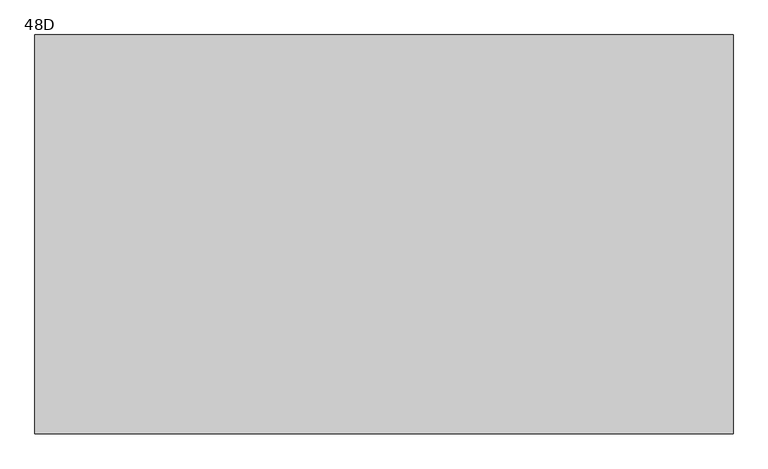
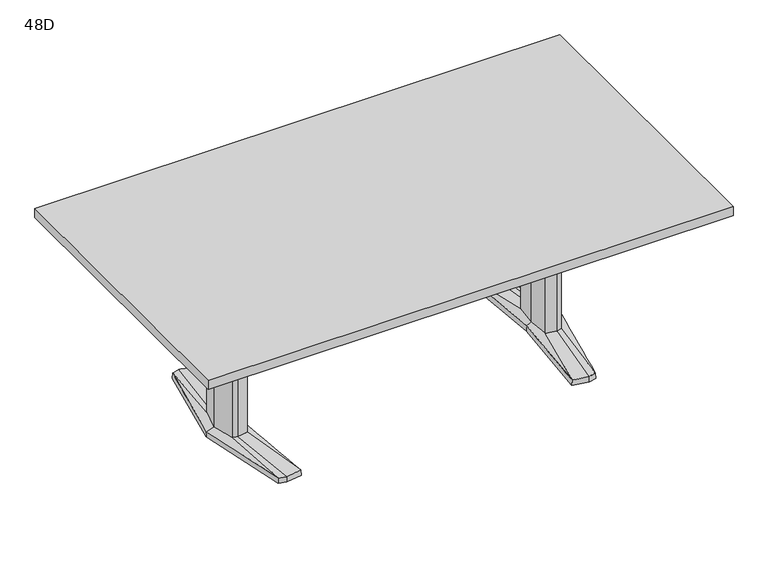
"""IFC4 building model written with IfcOpenShell, lengths in millimetres: furniture geometry, Coalesse_AM_Table_Conference_ETable2_Rectangular_84in_AluminiumBase : 48D."""

from ifc_helpers import new_model, si_unit, frame, origin, place, context, project, spatial, polyline, outline, extrude, source, transform, mapped, element, save
from ifc_brep_helpers import plane_surface, spline_surface, advanced_brep


def furniture_48d_375dbffd(model_context):
    return source(origin(), model_context, "Body", "SolidModel", [
        advanced_brep(
        [(614.8503471, -379.3768856, 25.4), (644.5756636, -371.5332654, 25.4), (668.2327243, -89.293702, 36.5125), (648.9795254, -94.605478, 36.5125), (606.0521001, -87.0529327, 36.5125), (551.7612538, -368.5071562, 25.4), (597.9364207, 0.0, 36.5125), (579.8389754, 0.3970149, 25.4), (606.0521001, 87.0529327, 36.5125), (551.7615002, 368.5172593, 25.4), (648.9795254, 94.605478, 36.5125), (614.8502233, 379.3769183, 25.4), (668.2327243, 89.293702, 36.5125), (644.7535458, 371.4863276, 25.4), (692.1595251, 0.0, 36.5125), (721.4851663, 0.0003516, 25.4), (578.2468742, 0.3968871, 3.175), (550.06875, 369.8367279, 3.175), (614.9213004, 381.0, 3.175), (646.1093245, 372.7704151, 3.175), (723.10625, 0.0, 3.175), (645.9309817, -372.8174744, 3.175), (614.9213004, -381.0, 3.175), (550.06875, -369.8264415, 3.175), (649.5979264, 107.6121478, 3.175), (594.3065451, 97.8843184, 3.175), (585.1810887, 0.0, 3.175), (594.3065451, -97.8843184, 3.175), (649.5979264, -107.6121478, 3.175), (678.6183473, -99.6056872, 3.175), (705.3083085, 0.0, 3.175), (678.6183473, 99.6056872, 3.175), (613.4286812, 346.9152841, 3.175), (557.7811371, 337.3364985, 3.175), (560.1889918, 324.8641942, 3.175), (612.8600644, 333.9306305, 3.175), (648.6725609, 324.4807859, 3.175), (647.5544526, 337.9105158, 3.175), (613.4286812, -346.9152841, 3.175), (647.5544526, -337.9105158, 3.175), (648.6725609, -324.4807859, 3.175), (612.8600644, -333.9306305, 3.175), (560.1889918, -324.8641942, 3.175), (557.7811371, -337.3364985, 3.175), (649.5979264, 107.6121478, 0.0), (678.6183473, 99.6056872, 0.0), (705.3083085, 0.0, 0.0), (678.6183473, -99.6056872, 0.0), (649.5979264, -107.6121478, 0.0), (594.3065451, -97.8843184, 0.0), (585.1810887, 0.0, 0.0), (594.3065451, 97.8843184, 0.0), (613.4286812, 346.9152841, 0.0), (647.5544526, 337.9105158, 0.0), (648.6725609, 324.4807859, 0.0), (612.8600644, 333.9306305, 0.0), (560.1889918, 324.8641942, 0.0), (557.7811371, 337.3364985, 0.0), (613.4286812, -346.9152841, 0.0), (557.7811371, -337.3364985, 0.0), (560.1889918, -324.8641942, 0.0), (612.8600644, -333.9306305, 0.0), (648.6725609, -324.4807859, 0.0), (647.5544526, -337.9105158, 0.0), (668.2327243, 89.293702, 698.5), (648.9795254, 94.605478, 698.5), (606.0521001, 87.0529327, 698.5), (597.9364207, 0.0, 698.5), (606.0521001, -87.0529327, 698.5), (648.9795254, -94.605478, 698.5), (668.2327243, -89.293702, 698.5), (692.1595251, 0.0, 698.5)],
        [
            (0, 1),
            (1, 2),
            (2, 3),
            (3, 0),
            (3, 4),
            (4, 5),
            (5, 0),
            (4, 6),
            (6, 7),
            (7, 5),
            (6, 8),
            (8, 9),
            (9, 7),
            (8, 10),
            (10, 11),
            (11, 9),
            (10, 12),
            (12, 13),
            (13, 11),
            (12, 14),
            (14, 15),
            (15, 13),
            (1, 15),
            (14, 2),
            (16, 17),
            (17, 18),
            (18, 19),
            (19, 20),
            (20, 21),
            (21, 22),
            (22, 23),
            (23, 16),
            (24, 25),
            (25, 26),
            (26, 27),
            (27, 28),
            (28, 29),
            (29, 30),
            (30, 31),
            (31, 24),
            (32, 33),
            (33, 34),
            (34, 35),
            (35, 36),
            (36, 37),
            (37, 32),
            (38, 39),
            (39, 40),
            (40, 41),
            (41, 42),
            (42, 43),
            (43, 38),
            (16, 7),
            (9, 17),
            (11, 18),
            (13, 19),
            (15, 20),
            (1, 21),
            (0, 22),
            (5, 23),
            (44, 45),
            (45, 46),
            (46, 47),
            (47, 48),
            (48, 49),
            (49, 50),
            (50, 51),
            (51, 44),
            (52, 53),
            (53, 54),
            (54, 55),
            (55, 56),
            (56, 57),
            (57, 52),
            (58, 59),
            (59, 60),
            (60, 61),
            (61, 62),
            (62, 63),
            (63, 58),
            (44, 24),
            (31, 45),
            (30, 46),
            (29, 47),
            (28, 48),
            (27, 49),
            (26, 50),
            (25, 51),
            (52, 32),
            (37, 53),
            (36, 54),
            (35, 55),
            (34, 56),
            (33, 57),
            (58, 38),
            (43, 59),
            (42, 60),
            (41, 61),
            (40, 62),
            (39, 63),
            (64, 65),
            (65, 66),
            (66, 67),
            (67, 68),
            (68, 69),
            (69, 70),
            (70, 71),
            (71, 64),
            (71, 14),
            (12, 64),
            (70, 2),
            (69, 3),
            (68, 4),
            (67, 6),
            (66, 8),
            (65, 10),
        ],
        [
            spline_surface(1, 1, [[(644.5756636, -371.5332654, 25.4), (614.8503471, -379.3768856, 25.4)], [(668.2327243, -89.293702, 36.5125), (648.9795254, -94.605478, 36.5125)]], [2, 2], [2, 2], [0.0, 1.0], [0.0, 1.0]),
            spline_surface(1, 1, [[(614.8503471, -379.3768856, 25.4), (551.7612538, -368.5071562, 25.4)], [(648.9795254, -94.605478, 36.5125), (606.0521001, -87.0529327, 36.5125)]], [2, 2], [2, 2], [0.0, 1.0], [0.0, 1.0]),
            spline_surface(1, 1, [[(551.7612538, -368.5071562, 25.4), (579.8389754, 0.3970149, 25.4)], [(606.0521001, -87.0529327, 36.5125), (597.9364207, 0.0, 36.5125)]], [2, 2], [2, 2], [0.0, 1.0], [0.0, 1.0]),
            spline_surface(1, 1, [[(579.8389754, 0.3970149, 25.4), (551.7615002, 368.5172593, 25.4)], [(597.9364207, 0.0, 36.5125), (606.0521001, 87.0529327, 36.5125)]], [2, 2], [2, 2], [0.0, 1.0], [0.0, 1.0]),
            spline_surface(1, 1, [[(551.7615002, 368.5172593, 25.4), (614.8502233, 379.3769183, 25.4)], [(606.0521001, 87.0529327, 36.5125), (648.9795254, 94.605478, 36.5125)]], [2, 2], [2, 2], [0.0, 1.0], [0.0, 1.0]),
            spline_surface(1, 1, [[(614.8502233, 379.3769183, 25.4), (644.7535458, 371.4863276, 25.4)], [(648.9795254, 94.605478, 36.5125), (668.2327243, 89.293702, 36.5125)]], [2, 2], [2, 2], [0.0, 1.0], [0.0, 1.0]),
            spline_surface(1, 1, [[(644.7535458, 371.4863276, 25.4), (721.4851663, 0.0003516, 25.4)], [(668.2327243, 89.293702, 36.5125), (692.1595251, 0.0, 36.5125)]], [2, 2], [2, 2], [0.0, 1.0], [0.0, 1.0]),
            spline_surface(1, 1, [[(721.4851663, 0.0003516, 25.4), (644.5756636, -371.5332654, 25.4)], [(692.1595251, 0.0, 36.5125), (668.2327243, -89.293702, 36.5125)]], [2, 2], [2, 2], [0.0, 1.0], [0.0, 1.0]),
            plane_surface(frame((615.4216914, 0.0450143, 3.175), z_axis=(0.0, 0.0, -1.0), x_axis=(-0.9669048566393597, -0.2551372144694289, 0.0))),
            plane_surface(frame((564.1578121, 185.1168075, 3.175), z_axis=(-0.9945699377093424, -0.07585840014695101, 0.0712470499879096), x_axis=(-0.07605167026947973, 0.9971038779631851, 0.0))),
            plane_surface(frame((582.4950252, 375.418364, 3.175), z_axis=(-0.1692071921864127, 0.9830019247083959, 0.07124704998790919), x_axis=(0.985506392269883, 0.16963829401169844, 0.0))),
            plane_surface(frame((630.5153124, 376.8852076, 3.175), z_axis=(0.2544888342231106, 0.9644476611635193, 0.07124704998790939), x_axis=(0.9669048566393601, -0.25513721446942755, 0.0))),
            plane_surface(frame((684.6077872, 186.3852076, 3.175), z_axis=(0.9768383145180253, 0.2017690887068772, 0.07124704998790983), x_axis=(0.20228315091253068, -0.9793270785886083, 0.0))),
            plane_surface(frame((684.5186158, -186.4087372, 3.175), z_axis=(0.9767507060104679, -0.20219276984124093, 0.07124704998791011), x_axis=(-0.2027079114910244, -0.9792392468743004, 0.0))),
            plane_surface(frame((630.426141, -376.9087372, 3.175), z_axis=(0.2544888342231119, -0.9644476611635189, 0.0712470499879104), x_axis=(-0.9669048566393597, -0.2551372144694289, 0.0))),
            plane_surface(frame((582.4950252, -375.4132207, 3.175), z_axis=(-0.16935861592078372, -0.982975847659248, 0.07124704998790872), x_axis=(-0.9854802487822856, 0.16979010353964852, 0.0))),
            plane_surface(frame((564.1578121, -184.7147772, 3.175), z_axis=(-0.9945820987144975, 0.07569878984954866, 0.07124704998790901), x_axis=(0.07589165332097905, 0.9971160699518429, 0.0))),
            plane_surface(frame((652.3571479, 106.8509046, 0.0), z_axis=(0.0, 0.0, -1.0000000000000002), x_axis=(-0.9639855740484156, 0.26595453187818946, 0.0))),
            plane_surface(frame((649.5979264, 107.6121478, 3.175), z_axis=(0.26595453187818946, 0.9639855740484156, 0.0), x_axis=(0.0, 0.0, -1.0))),
            plane_surface(frame((678.6183473, 99.6056872, 3.175), z_axis=(0.9659241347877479, 0.2588253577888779, 0.0), x_axis=(0.0, 0.0, -1.0))),
            plane_surface(frame((705.3083085, 0.0, 3.175), z_axis=(0.9659241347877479, -0.2588253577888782, 0.0), x_axis=(0.0, 0.0, -1.0))),
            plane_surface(frame((678.6183473, -99.6056872, 3.175), z_axis=(0.26595453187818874, -0.9639855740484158, 0.0), x_axis=(0.0, 0.0, -1.0))),
            plane_surface(frame((649.5979264, -107.6121478, 3.175), z_axis=(-0.17327617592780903, -0.9848732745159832, 0.0), x_axis=(0.0, 0.0, -1.0))),
            plane_surface(frame((594.3065451, -97.8843184, 3.175), z_axis=(-0.9956824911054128, -0.0928244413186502, 0.0), x_axis=(0.0, 0.0, -1.0))),
            plane_surface(frame((585.1810887, 0.0, 3.175), z_axis=(-0.9956824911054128, 0.09282444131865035, 0.0), x_axis=(0.0, 0.0, -1.0))),
            plane_surface(frame((594.3065451, 97.8843184, 3.175), z_axis=(-0.17327617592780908, 0.984873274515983, 0.0), x_axis=(0.0, 0.0, -1.0))),
            plane_surface(frame((613.4286812, 346.9152841, 3.175), z_axis=(0.25513721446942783, 0.9669048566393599, 0.0), x_axis=(0.0, 0.0, -1.0))),
            plane_surface(frame((647.5544526, 337.9105158, 3.175), z_axis=(0.9965521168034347, 0.0829691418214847, 0.0), x_axis=(0.0, 0.0, -1.0))),
            plane_surface(frame((648.6725609, 324.4807859, 3.175), z_axis=(-0.25513721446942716, -0.9669048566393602, 0.0), x_axis=(0.0, 0.0, -1.0))),
            plane_surface(frame((612.8600644, 333.9306305, 3.175), z_axis=(0.16963829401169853, -0.985506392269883, 0.0), x_axis=(0.0, 0.0, -1.0))),
            plane_surface(frame((560.1889918, 324.8641942, 3.175), z_axis=(-0.9818699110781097, -0.18955600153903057, 0.0), x_axis=(0.0, 0.0, -1.0))),
            plane_surface(frame((557.7811371, 337.3364985, 3.175), z_axis=(-0.16963829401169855, 0.9855063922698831, 0.0), x_axis=(0.0, 0.0, -1.0))),
            plane_surface(frame((613.4286812, -346.9152841, 3.175), z_axis=(-0.1696382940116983, -0.9855063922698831, 0.0), x_axis=(0.0, 0.0, -1.0))),
            plane_surface(frame((557.7811371, -337.3364985, 3.175), z_axis=(-0.9818699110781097, 0.18955600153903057, 0.0), x_axis=(0.0, 0.0, -1.0))),
            plane_surface(frame((560.1889918, -324.8641942, 3.175), z_axis=(0.16963829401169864, 0.985506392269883, 0.0), x_axis=(0.0, 0.0, -1.0))),
            plane_surface(frame((612.8600644, -333.9306305, 3.175), z_axis=(-0.2551372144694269, 0.9669048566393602, 0.0), x_axis=(0.0, 0.0, -1.0))),
            plane_surface(frame((648.6725609, -324.4807859, 3.175), z_axis=(0.9965521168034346, -0.0829691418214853, 0.0), x_axis=(0.0, 0.0, -1.0))),
            plane_surface(frame((647.5544526, -337.9105158, 3.175), z_axis=(0.2551372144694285, -0.9669048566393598, 0.0), x_axis=(0.0, 0.0, -1.0))),
            plane_surface(frame((692.1595251, 0.0, 698.5), z_axis=(0.0, 0.0, 1.0), x_axis=(0.25882535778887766, -0.965924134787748, 0.0))),
            plane_surface(frame((668.2327243, 89.293702, 698.5), z_axis=(0.965924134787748, 0.25882535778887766, 0.0), x_axis=(0.0, 0.0, -1.0))),
            plane_surface(frame((692.1595251, 0.0, 698.5), z_axis=(0.965924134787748, -0.2588253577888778, 0.0), x_axis=(0.0, 0.0, -1.0))),
            plane_surface(frame((668.2327243, -89.293702, 698.5), z_axis=(0.2659545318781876, -0.963985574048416, 0.0), x_axis=(0.0, 0.0, -1.0))),
            plane_surface(frame((648.9795254, -94.605478, 698.5), z_axis=(-0.1732761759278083, -0.9848732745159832, 0.0), x_axis=(0.0, 0.0, -1.0))),
            plane_surface(frame((606.0521001, -87.0529327, 698.5), z_axis=(-0.9956824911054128, -0.0928244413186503, 0.0), x_axis=(0.0, 0.0, -1.0))),
            plane_surface(frame((597.9364207, 0.0, 698.5), z_axis=(-0.9956824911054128, 0.09282444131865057, 0.0), x_axis=(0.0, 0.0, -1.0))),
            plane_surface(frame((606.0521001, 87.0529327, 698.5), z_axis=(-0.17327617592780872, 0.9848732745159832, 0.0), x_axis=(0.0, 0.0, -1.0))),
            plane_surface(frame((648.9795254, 94.605478, 698.5), z_axis=(0.26595453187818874, 0.9639855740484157, 0.0), x_axis=(0.0, 0.0, -1.0))),
        ],
        [
            (0, [[1, 2, 3, 4]]),
            (1, [[5, 6, 7, -4]]),
            (2, [[8, 9, 10, -6]]),
            (3, [[11, 12, 13, -9]]),
            (4, [[14, 15, 16, -12]]),
            (5, [[17, 18, 19, -15]]),
            (6, [[20, 21, 22, -18]]),
            (7, [[23, -21, 24, -2]]),
            (8, [[25, 26, 27, 28, 29, 30, 31, 32], [33, 34, 35, 36, 37, 38, 39, 40], [41, 42, 43, 44, 45, 46], [47, 48, 49, 50, 51, 52]]),
            (9, [[53, -13, 54, -25]]),
            (10, [[-54, -16, 55, -26]]),
            (11, [[-55, -19, 56, -27]]),
            (12, [[-56, -22, 57, -28]]),
            (13, [[-57, -23, 58, -29]]),
            (14, [[-58, -1, 59, -30]]),
            (15, [[-59, -7, 60, -31]]),
            (16, [[-60, -10, -53, -32]]),
            (17, [[61, 62, 63, 64, 65, 66, 67, 68]]),
            (17, [[69, 70, 71, 72, 73, 74]]),
            (17, [[75, 76, 77, 78, 79, 80]]),
            (18, [[81, -40, 82, -61]]),
            (19, [[-82, -39, 83, -62]]),
            (20, [[-83, -38, 84, -63]]),
            (21, [[-84, -37, 85, -64]]),
            (22, [[-85, -36, 86, -65]]),
            (23, [[-86, -35, 87, -66]]),
            (24, [[-87, -34, 88, -67]]),
            (25, [[-88, -33, -81, -68]]),
            (26, [[89, -46, 90, -69]]),
            (27, [[-90, -45, 91, -70]]),
            (28, [[-91, -44, 92, -71]]),
            (29, [[-92, -43, 93, -72]]),
            (30, [[-93, -42, 94, -73]]),
            (31, [[-94, -41, -89, -74]]),
            (32, [[95, -52, 96, -75]]),
            (33, [[-96, -51, 97, -76]]),
            (34, [[-97, -50, 98, -77]]),
            (35, [[-98, -49, 99, -78]]),
            (36, [[-99, -48, 100, -79]]),
            (37, [[-100, -47, -95, -80]]),
            (38, [[101, 102, 103, 104, 105, 106, 107, 108]]),
            (39, [[109, -20, 110, -108]]),
            (40, [[111, -24, -109, -107]]),
            (41, [[112, -3, -111, -106]]),
            (42, [[113, -5, -112, -105]]),
            (43, [[114, -8, -113, -104]]),
            (44, [[115, -11, -114, -103]]),
            (45, [[116, -14, -115, -102]]),
            (46, [[-110, -17, -116, -101]]),
        ],
    ),
        advanced_brep(
        [(-614.8503471, -379.3768856, 25.4), (-648.9795254, -94.605478, 36.5125), (-668.2327243, -89.293702, 36.5125), (-644.5756636, -371.5332654, 25.4), (-551.7612538, -368.5071562, 25.4), (-606.0521001, -87.0529327, 36.5125), (-579.8389754, 0.3970149, 25.4), (-597.9364207, 0.0, 36.5125), (-551.7615002, 368.5172593, 25.4), (-606.0521001, 87.0529327, 36.5125), (-614.8502233, 379.3769183, 25.4), (-648.9795254, 94.605478, 36.5125), (-644.7535458, 371.4863276, 25.4), (-668.2327243, 89.293702, 36.5125), (-721.4851663, 0.0003516, 25.4), (-692.1595251, 0.0, 36.5125), (-578.2468742, 0.3968871, 3.175), (-550.06875, -369.8264415, 3.175), (-614.9213004, -381.0, 3.175), (-645.9309817, -372.8174744, 3.175), (-723.10625, 0.0, 3.175), (-646.1093245, 372.7704151, 3.175), (-614.9213004, 381.0, 3.175), (-550.06875, 369.8367279, 3.175), (-649.5979264, 107.6121478, 3.175), (-678.6183473, 99.6056872, 3.175), (-705.3083085, 0.0, 3.175), (-678.6183473, -99.6056872, 3.175), (-649.5979264, -107.6121478, 3.175), (-594.3065451, -97.8843184, 3.175), (-585.1810887, 0.0, 3.175), (-594.3065451, 97.8843184, 3.175), (-613.4286812, 346.9152841, 3.175), (-647.5544526, 337.9105158, 3.175), (-648.6725609, 324.4807859, 3.175), (-612.8600644, 333.9306305, 3.175), (-560.1889918, 324.8641942, 3.175), (-557.7811371, 337.3364985, 3.175), (-613.4286812, -346.9152841, 3.175), (-557.7811371, -337.3364985, 3.175), (-560.1889918, -324.8641942, 3.175), (-612.8600644, -333.9306305, 3.175), (-648.6725609, -324.4807859, 3.175), (-647.5544526, -337.9105158, 3.175), (-649.5979264, 107.6121478, 0.0), (-594.3065451, 97.8843184, 0.0), (-585.1810887, 0.0, 0.0), (-594.3065451, -97.8843184, 0.0), (-649.5979264, -107.6121478, 0.0), (-678.6183473, -99.6056872, 0.0), (-705.3083085, 0.0, 0.0), (-678.6183473, 99.6056872, 0.0), (-613.4286812, 346.9152841, 0.0), (-557.7811371, 337.3364985, 0.0), (-560.1889918, 324.8641942, 0.0), (-612.8600644, 333.9306305, 0.0), (-648.6725609, 324.4807859, 0.0), (-647.5544526, 337.9105158, 0.0), (-613.4286812, -346.9152841, 0.0), (-647.5544526, -337.9105158, 0.0), (-648.6725609, -324.4807859, 0.0), (-612.8600644, -333.9306305, 0.0), (-560.1889918, -324.8641942, 0.0), (-557.7811371, -337.3364985, 0.0), (-668.2327243, 89.293702, 698.5), (-692.1595251, 0.0, 698.5), (-668.2327243, -89.293702, 698.5), (-648.9795254, -94.605478, 698.5), (-606.0521001, -87.0529327, 698.5), (-597.9364207, 0.0, 698.5), (-606.0521001, 87.0529327, 698.5), (-648.9795254, 94.605478, 698.5)],
        [
            (0, 1),
            (1, 2),
            (2, 3),
            (3, 0),
            (0, 4),
            (4, 5),
            (5, 1),
            (4, 6),
            (6, 7),
            (7, 5),
            (6, 8),
            (8, 9),
            (9, 7),
            (8, 10),
            (10, 11),
            (11, 9),
            (10, 12),
            (12, 13),
            (13, 11),
            (12, 14),
            (14, 15),
            (15, 13),
            (2, 15),
            (14, 3),
            (16, 17),
            (17, 18),
            (18, 19),
            (19, 20),
            (20, 21),
            (21, 22),
            (22, 23),
            (23, 16),
            (24, 25),
            (25, 26),
            (26, 27),
            (27, 28),
            (28, 29),
            (29, 30),
            (30, 31),
            (31, 24),
            (32, 33),
            (33, 34),
            (34, 35),
            (35, 36),
            (36, 37),
            (37, 32),
            (38, 39),
            (39, 40),
            (40, 41),
            (41, 42),
            (42, 43),
            (43, 38),
            (23, 8),
            (6, 16),
            (22, 10),
            (21, 12),
            (20, 14),
            (19, 3),
            (18, 0),
            (17, 4),
            (44, 45),
            (45, 46),
            (46, 47),
            (47, 48),
            (48, 49),
            (49, 50),
            (50, 51),
            (51, 44),
            (52, 53),
            (53, 54),
            (54, 55),
            (55, 56),
            (56, 57),
            (57, 52),
            (58, 59),
            (59, 60),
            (60, 61),
            (61, 62),
            (62, 63),
            (63, 58),
            (51, 25),
            (24, 44),
            (50, 26),
            (49, 27),
            (48, 28),
            (47, 29),
            (46, 30),
            (45, 31),
            (57, 33),
            (32, 52),
            (56, 34),
            (55, 35),
            (54, 36),
            (53, 37),
            (63, 39),
            (38, 58),
            (62, 40),
            (61, 41),
            (60, 42),
            (59, 43),
            (64, 65),
            (65, 66),
            (66, 67),
            (67, 68),
            (68, 69),
            (69, 70),
            (70, 71),
            (71, 64),
            (64, 13),
            (15, 65),
            (2, 66),
            (1, 67),
            (5, 68),
            (7, 69),
            (9, 70),
            (11, 71),
        ],
        [
            spline_surface(1, 1, [[(-644.5756636, -371.5332654, 25.4), (-668.2327243, -89.293702, 36.5125)], [(-614.8503471, -379.3768856, 25.4), (-648.9795254, -94.605478, 36.5125)]], [2, 2], [2, 2], [0.0, 1.0], [0.0, 1.0]),
            spline_surface(1, 1, [[(-614.8503471, -379.3768856, 25.4), (-648.9795254, -94.605478, 36.5125)], [(-551.7612538, -368.5071562, 25.4), (-606.0521001, -87.0529327, 36.5125)]], [2, 2], [2, 2], [0.0, 1.0], [0.0, 1.0]),
            spline_surface(1, 1, [[(-551.7612538, -368.5071562, 25.4), (-606.0521001, -87.0529327, 36.5125)], [(-579.8389754, 0.3970149, 25.4), (-597.9364207, 0.0, 36.5125)]], [2, 2], [2, 2], [0.0, 1.0], [0.0, 1.0]),
            spline_surface(1, 1, [[(-579.8389754, 0.3970149, 25.4), (-597.9364207, 0.0, 36.5125)], [(-551.7615002, 368.5172593, 25.4), (-606.0521001, 87.0529327, 36.5125)]], [2, 2], [2, 2], [0.0, 1.0], [0.0, 1.0]),
            spline_surface(1, 1, [[(-551.7615002, 368.5172593, 25.4), (-606.0521001, 87.0529327, 36.5125)], [(-614.8502233, 379.3769183, 25.4), (-648.9795254, 94.605478, 36.5125)]], [2, 2], [2, 2], [0.0, 1.0], [0.0, 1.0]),
            spline_surface(1, 1, [[(-614.8502233, 379.3769183, 25.4), (-648.9795254, 94.605478, 36.5125)], [(-644.7535458, 371.4863276, 25.4), (-668.2327243, 89.293702, 36.5125)]], [2, 2], [2, 2], [0.0, 1.0], [0.0, 1.0]),
            spline_surface(1, 1, [[(-644.7535458, 371.4863276, 25.4), (-668.2327243, 89.293702, 36.5125)], [(-721.4851663, 0.0003516, 25.4), (-692.1595251, 0.0, 36.5125)]], [2, 2], [2, 2], [0.0, 1.0], [0.0, 1.0]),
            spline_surface(1, 1, [[(-721.4851663, 0.0003516, 25.4), (-692.1595251, 0.0, 36.5125)], [(-644.5756636, -371.5332654, 25.4), (-668.2327243, -89.293702, 36.5125)]], [2, 2], [2, 2], [0.0, 1.0], [0.0, 1.0]),
            plane_surface(frame((-615.4216914, 0.0450143, 3.175), z_axis=(0.0, 0.0, -1.0), x_axis=(0.9669048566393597, -0.2551372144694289, 0.0))),
            plane_surface(frame((-564.1578121, 185.1168075, 3.175), z_axis=(0.9945699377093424, -0.07585840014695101, 0.0712470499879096), x_axis=(0.07605167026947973, 0.9971038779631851, 0.0))),
            plane_surface(frame((-582.4950252, 375.418364, 3.175), z_axis=(0.1692071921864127, 0.9830019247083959, 0.07124704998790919), x_axis=(-0.985506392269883, 0.16963829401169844, 0.0))),
            plane_surface(frame((-630.5153124, 376.8852076, 3.175), z_axis=(-0.2544888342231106, 0.9644476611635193, 0.07124704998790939), x_axis=(-0.9669048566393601, -0.25513721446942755, 0.0))),
            plane_surface(frame((-684.6077872, 186.3852076, 3.175), z_axis=(-0.9768383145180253, 0.2017690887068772, 0.07124704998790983), x_axis=(-0.20228315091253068, -0.9793270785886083, 0.0))),
            plane_surface(frame((-684.5186158, -186.4087372, 3.175), z_axis=(-0.9767507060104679, -0.20219276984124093, 0.07124704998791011), x_axis=(0.2027079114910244, -0.9792392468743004, 0.0))),
            plane_surface(frame((-630.426141, -376.9087372, 3.175), z_axis=(-0.2544888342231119, -0.9644476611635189, 0.0712470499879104), x_axis=(0.9669048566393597, -0.2551372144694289, 0.0))),
            plane_surface(frame((-582.4950252, -375.4132207, 3.175), z_axis=(0.16935861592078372, -0.982975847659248, 0.07124704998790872), x_axis=(0.9854802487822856, 0.16979010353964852, 0.0))),
            plane_surface(frame((-564.1578121, -184.7147772, 3.175), z_axis=(0.9945820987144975, 0.07569878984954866, 0.07124704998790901), x_axis=(-0.07589165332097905, 0.9971160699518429, 0.0))),
            plane_surface(frame((-652.3571479, 106.8509046, 0.0), z_axis=(0.0, 0.0, -1.0000000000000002), x_axis=(0.9639855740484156, 0.26595453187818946, 0.0))),
            plane_surface(frame((-649.5979264, 107.6121478, 3.175), z_axis=(-0.26595453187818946, 0.9639855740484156, 0.0), x_axis=(0.0, 0.0, -1.0))),
            plane_surface(frame((-678.6183473, 99.6056872, 3.175), z_axis=(-0.9659241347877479, 0.2588253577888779, 0.0), x_axis=(0.0, 0.0, -1.0))),
            plane_surface(frame((-705.3083085, 0.0, 3.175), z_axis=(-0.9659241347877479, -0.2588253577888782, 0.0), x_axis=(0.0, 0.0, -1.0))),
            plane_surface(frame((-678.6183473, -99.6056872, 3.175), z_axis=(-0.26595453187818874, -0.9639855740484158, 0.0), x_axis=(0.0, 0.0, -1.0))),
            plane_surface(frame((-649.5979264, -107.6121478, 3.175), z_axis=(0.17327617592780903, -0.9848732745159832, 0.0), x_axis=(0.0, 0.0, -1.0))),
            plane_surface(frame((-594.3065451, -97.8843184, 3.175), z_axis=(0.9956824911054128, -0.0928244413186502, 0.0), x_axis=(0.0, 0.0, -1.0))),
            plane_surface(frame((-585.1810887, 0.0, 3.175), z_axis=(0.9956824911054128, 0.09282444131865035, 0.0), x_axis=(0.0, 0.0, -1.0))),
            plane_surface(frame((-594.3065451, 97.8843184, 3.175), z_axis=(0.17327617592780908, 0.984873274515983, 0.0), x_axis=(0.0, 0.0, -1.0))),
            plane_surface(frame((-613.4286812, 346.9152841, 3.175), z_axis=(-0.25513721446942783, 0.9669048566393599, 0.0), x_axis=(0.0, 0.0, -1.0))),
            plane_surface(frame((-647.5544526, 337.9105158, 3.175), z_axis=(-0.9965521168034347, 0.0829691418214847, 0.0), x_axis=(0.0, 0.0, -1.0))),
            plane_surface(frame((-648.6725609, 324.4807859, 3.175), z_axis=(0.25513721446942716, -0.9669048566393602, 0.0), x_axis=(0.0, 0.0, -1.0))),
            plane_surface(frame((-612.8600644, 333.9306305, 3.175), z_axis=(-0.16963829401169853, -0.985506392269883, 0.0), x_axis=(0.0, 0.0, -1.0))),
            plane_surface(frame((-560.1889918, 324.8641942, 3.175), z_axis=(0.9818699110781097, -0.18955600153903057, 0.0), x_axis=(0.0, 0.0, -1.0))),
            plane_surface(frame((-557.7811371, 337.3364985, 3.175), z_axis=(0.16963829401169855, 0.9855063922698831, 0.0), x_axis=(0.0, 0.0, -1.0))),
            plane_surface(frame((-613.4286812, -346.9152841, 3.175), z_axis=(0.1696382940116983, -0.9855063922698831, 0.0), x_axis=(0.0, 0.0, -1.0))),
            plane_surface(frame((-557.7811371, -337.3364985, 3.175), z_axis=(0.9818699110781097, 0.18955600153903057, 0.0), x_axis=(0.0, 0.0, -1.0))),
            plane_surface(frame((-560.1889918, -324.8641942, 3.175), z_axis=(-0.16963829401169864, 0.985506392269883, 0.0), x_axis=(0.0, 0.0, -1.0))),
            plane_surface(frame((-612.8600644, -333.9306305, 3.175), z_axis=(0.2551372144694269, 0.9669048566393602, 0.0), x_axis=(0.0, 0.0, -1.0))),
            plane_surface(frame((-648.6725609, -324.4807859, 3.175), z_axis=(-0.9965521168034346, -0.0829691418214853, 0.0), x_axis=(0.0, 0.0, -1.0))),
            plane_surface(frame((-647.5544526, -337.9105158, 3.175), z_axis=(-0.2551372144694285, -0.9669048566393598, 0.0), x_axis=(0.0, 0.0, -1.0))),
            plane_surface(frame((-692.1595251, 0.0, 698.5), z_axis=(0.0, 0.0, 1.0), x_axis=(-0.25882535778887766, -0.965924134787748, 0.0))),
            plane_surface(frame((-668.2327243, 89.293702, 698.5), z_axis=(-0.965924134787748, 0.25882535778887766, 0.0), x_axis=(0.0, 0.0, -1.0))),
            plane_surface(frame((-692.1595251, 0.0, 698.5), z_axis=(-0.965924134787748, -0.2588253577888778, 0.0), x_axis=(0.0, 0.0, -1.0))),
            plane_surface(frame((-668.2327243, -89.293702, 698.5), z_axis=(-0.2659545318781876, -0.963985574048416, 0.0), x_axis=(0.0, 0.0, -1.0))),
            plane_surface(frame((-648.9795254, -94.605478, 698.5), z_axis=(0.1732761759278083, -0.9848732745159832, 0.0), x_axis=(0.0, 0.0, -1.0))),
            plane_surface(frame((-606.0521001, -87.0529327, 698.5), z_axis=(0.9956824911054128, -0.0928244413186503, 0.0), x_axis=(0.0, 0.0, -1.0))),
            plane_surface(frame((-597.9364207, 0.0, 698.5), z_axis=(0.9956824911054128, 0.09282444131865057, 0.0), x_axis=(0.0, 0.0, -1.0))),
            plane_surface(frame((-606.0521001, 87.0529327, 698.5), z_axis=(0.17327617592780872, 0.9848732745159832, 0.0), x_axis=(0.0, 0.0, -1.0))),
            plane_surface(frame((-648.9795254, 94.605478, 698.5), z_axis=(-0.26595453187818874, 0.9639855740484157, 0.0), x_axis=(0.0, 0.0, -1.0))),
        ],
        [
            (0, [[1, 2, 3, 4]]),
            (1, [[-1, 5, 6, 7]]),
            (2, [[-6, 8, 9, 10]]),
            (3, [[-9, 11, 12, 13]]),
            (4, [[-12, 14, 15, 16]]),
            (5, [[-15, 17, 18, 19]]),
            (6, [[-18, 20, 21, 22]]),
            (7, [[-3, 23, -21, 24]]),
            (8, [[25, 26, 27, 28, 29, 30, 31, 32], [33, 34, 35, 36, 37, 38, 39, 40], [41, 42, 43, 44, 45, 46], [47, 48, 49, 50, 51, 52]]),
            (9, [[-32, 53, -11, 54]]),
            (10, [[-31, 55, -14, -53]]),
            (11, [[-30, 56, -17, -55]]),
            (12, [[-29, 57, -20, -56]]),
            (13, [[-28, 58, -24, -57]]),
            (14, [[-27, 59, -4, -58]]),
            (15, [[-26, 60, -5, -59]]),
            (16, [[-25, -54, -8, -60]]),
            (17, [[61, 62, 63, 64, 65, 66, 67, 68]]),
            (17, [[69, 70, 71, 72, 73, 74]]),
            (17, [[75, 76, 77, 78, 79, 80]]),
            (18, [[-68, 81, -33, 82]]),
            (19, [[-67, 83, -34, -81]]),
            (20, [[-66, 84, -35, -83]]),
            (21, [[-65, 85, -36, -84]]),
            (22, [[-64, 86, -37, -85]]),
            (23, [[-63, 87, -38, -86]]),
            (24, [[-62, 88, -39, -87]]),
            (25, [[-61, -82, -40, -88]]),
            (26, [[-74, 89, -41, 90]]),
            (27, [[-73, 91, -42, -89]]),
            (28, [[-72, 92, -43, -91]]),
            (29, [[-71, 93, -44, -92]]),
            (30, [[-70, 94, -45, -93]]),
            (31, [[-69, -90, -46, -94]]),
            (32, [[-80, 95, -47, 96]]),
            (33, [[-79, 97, -48, -95]]),
            (34, [[-78, 98, -49, -97]]),
            (35, [[-77, 99, -50, -98]]),
            (36, [[-76, 100, -51, -99]]),
            (37, [[-75, -96, -52, -100]]),
            (38, [[101, 102, 103, 104, 105, 106, 107, 108]]),
            (39, [[-101, 109, -22, 110]]),
            (40, [[-102, -110, -23, 111]]),
            (41, [[-103, -111, -2, 112]]),
            (42, [[-104, -112, -7, 113]]),
            (43, [[-105, -113, -10, 114]]),
            (44, [[-106, -114, -13, 115]]),
            (45, [[-107, -115, -16, 116]]),
            (46, [[-108, -116, -19, -109]]),
        ],
    ),
        extrude(outline(polyline([(-1066.8, -609.6), (-1066.8, 609.6), (1066.8, 609.6), (1066.8, -609.6), (-1066.8, -609.6)])), frame((0.0, 0.0, 698.5), z_axis=(0.0, 0.0, 1.0), x_axis=(1.0, 0.0, 0.0)), (0.0, 0.0, 1.0), 38.1),
        extrude(outline(polyline([(96.8375, 698.5), (103.1875, 698.5), (103.1875, 476.25), (-103.1875, 476.25), (-103.1875, 698.5), (-96.8375, 698.5), (-96.8375, 482.6), (96.8375, 482.6), (96.8375, 698.5)])), frame((-597.9364207, 0.0, 0.0), z_axis=(1.0, 0.0, 0.0), x_axis=(0.0, 1.0, 0.0)), (0.0, 0.0, 1.0), 1195.8728415),
    ])


if __name__ == "__main__":
    model = new_model("IFC4")
    model_context = context("Model", 3, world=origin())
    ifc_project = project(units=[si_unit("LENGTHUNIT", "METRE", prefix="MILLI")], contexts=[model_context])
    site = spatial("IfcSite", under=ifc_project)
    building = spatial("IfcBuilding", under=site)
    placement = place(None, origin())
    furniture_48d_shape = furniture_48d_375dbffd(model_context)
    element("IfcFurniture", 1, ObjectType="Coalesse_AM_Table_Conference_ETable2_Rectangular_84in_AluminiumBase : 48D", at=placement, inside=building, context=model_context, shape_type="MappedRepresentation", body=[
        mapped(furniture_48d_shape, transform((0.0, 0.0, 0.0), x_axis=(1.0, 0.0, 0.0), y_axis=(0.0, 1.0, 0.0), z_axis=(0.0, 0.0, 1.0))),
    ])
    save(model, "model.ifc")
